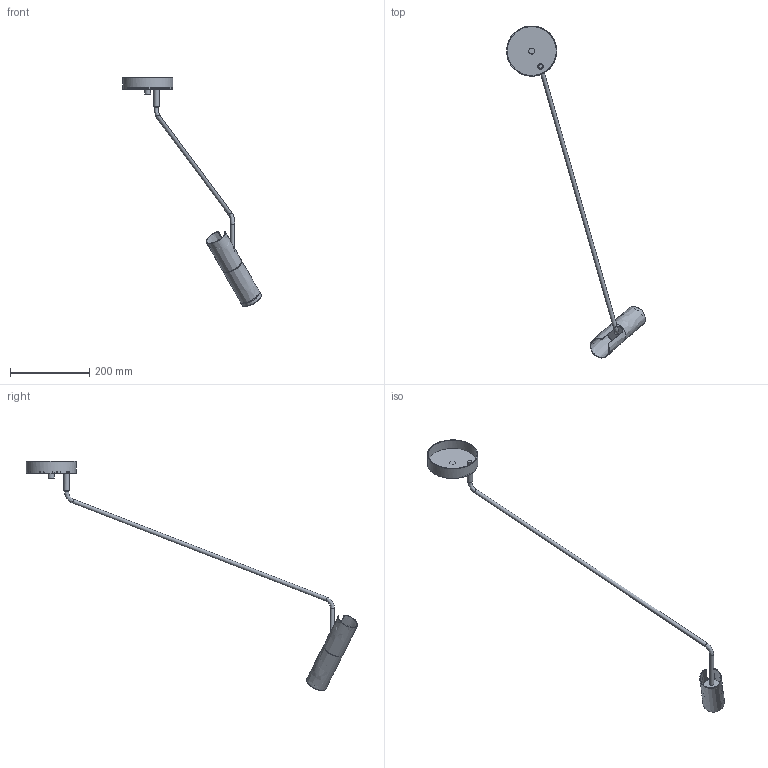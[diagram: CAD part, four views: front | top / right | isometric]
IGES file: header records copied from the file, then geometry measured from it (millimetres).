
Start section: SolidWorks IGES file using NURBS representation for surfaces
Global section: file name: Z:\Modele 3D_WWW\_KOLEKCJE WWW\EYE-SUPER\EYE-SUPER-C-6630-6631-6632\EYE-SUPER-C-6630-6631-6632.IGS; native system: SolidWorks 2021; preprocessor: SolidWorks 2021; author: gabriela.tworek; date: 220324.084719; units: millimetre
Bounding box: 351.08 x 839.69 x 579.7 mm (x, y, z)
Surface area: 152406.5 mm2 (no closed solid volume)
Topology: 0 solids, 0 shells, 35 faces, 153 edges, 138 vertices
Faces by surface type: bspline 35
